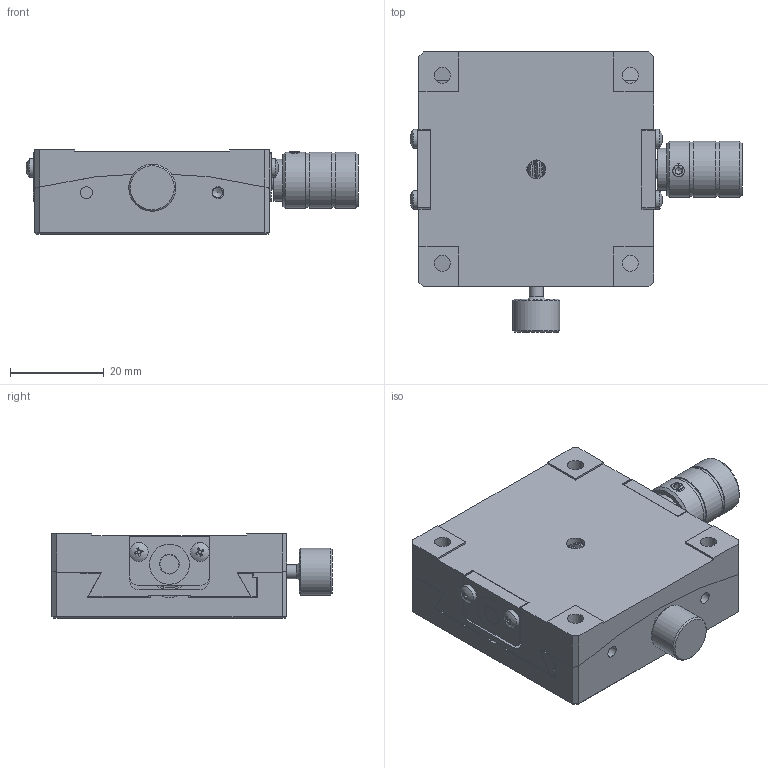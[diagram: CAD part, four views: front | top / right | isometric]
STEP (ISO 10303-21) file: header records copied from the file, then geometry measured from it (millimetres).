
FILE_DESCRIPTION (( 'STEP AP203' ), '1' );
FILE_NAME ('BFSG50-86.STEP', '2024-07-30T11:08:25', ( 'Windows User' ), ( 'P R C' ), 'SwSTEP 2.0', 'SolidWorks 2024', '' );
FILE_SCHEMA (( 'CONFIG_CONTROL_DESIGN' ));
Length unit declared in the file: millimetre
Products named in the file (1): BFSG50-86
Bounding box: 70.68 x 59.64 x 18 mm (x, y, z)
Volume: 42852.6 mm3; surface area: 22082.1 mm2
Topology: 13 solids, 13 shells, 526 faces, 1489 edges, 1020 vertices
Faces by surface type: plane 369, cylinder 118, cone 29, bspline 5, sphere 4, torus 1
Full cylindrical faces by diameter (mm): 1.6 x4, 2 x4, 2.1 x1, 2.5 x12, 3 x2, 3.4 x4, 4 x9, 4.2 x2, 5.6 x4, 6 x2, 8 x2, 8.5 x2, 9 x1, 10 x2, 10.8 x1, 11.5 x2, 12 x3
Entity records: 23404 total; most frequent: CARTESIAN_POINT 10076, ORIENTED_EDGE 2768, DIRECTION 2607, EDGE_CURVE 1384, VERTEX_POINT 994, AXIS2_PLACEMENT_3D 883, LINE 841, VECTOR 841
